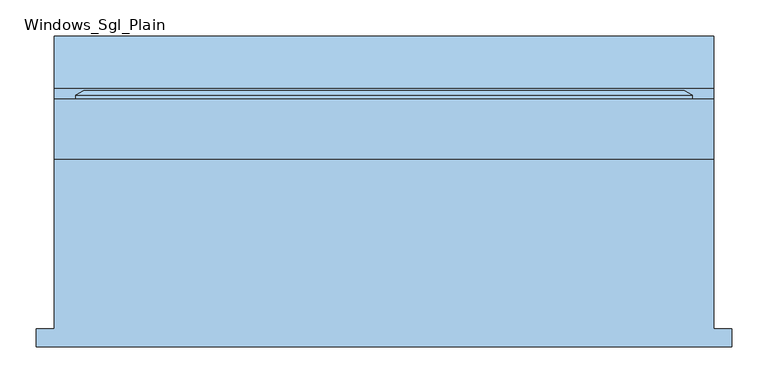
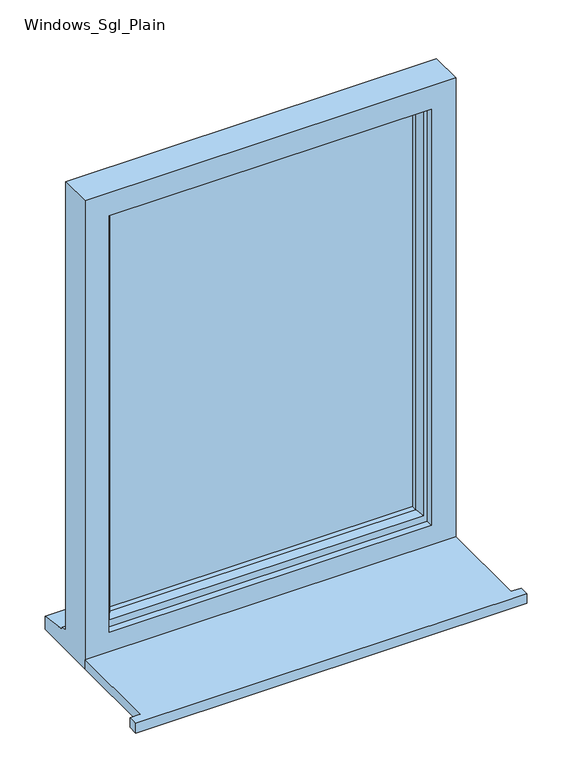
"""IFC4 building model written with IfcOpenShell, lengths in millimetres: window geometry."""

from ifc_helpers import new_model, si_unit, frame, origin, place, context, project, spatial, polyline, outline, extrude, faceted_brep, source, transform, mapped, element, save


def windows_sgl_plain_66ff2678(model_context):
    return source(origin(), model_context, "Body", "SolidModel", [
        extrude(outline(polyline([(-482.2, -200.6934322), (-482.2, -175.6934322), (-457.2, -175.6934322), (-457.2, 59.6065678), (457.2, 59.6065678), (457.2, -175.6934322), (482.2, -175.6934322), (482.2, -200.6934322), (-482.2, -200.6934322)])), frame((0.0, 0.0, 890.8), z_axis=(0.0, 0.0, 1.0), x_axis=(1.0, 0.0, 0.0)), (0.0, 0.0, 1.0), 25.0),
        faceted_brep([(-457.2, 59.6065678, 890.8), (457.2, 59.6065678, 890.8), (457.2, 59.6065678, 2110.0), (-457.2, 59.6065678, 2110.0), (-397.2, 59.6065678, 2050.0), (397.2, 59.6065678, 2050.0), (397.2, 59.6065678, 965.8), (-397.2, 59.6065678, 965.8), (-457.2, 142.6065678, 2110.0), (-457.2, 142.6065678, 941.8), (-457.2, 157.6065678, 940.48767), (-457.2, 157.6065678, 935.5449676), (-457.2, 230.1065678, 924.6088847), (-457.2, 230.1065678, 890.8), (457.2, 142.6065678, 2110.0), (457.2, 142.6065678, 941.8), (-417.2, 142.6065678, 2070.0), (-417.2, 142.6065678, 953.8), (417.2, 142.6065678, 953.8), (417.2, 142.6065678, 2070.0), (-417.2, 77.6065678, 2070.0), (-417.2, 77.6065678, 953.8), (417.2, 77.6065678, 2070.0), (417.2, 77.6065678, 953.8), (-397.2, 77.6065678, 2050.0), (-397.2, 77.6065678, 965.8), (397.2, 77.6065678, 965.8), (397.2, 77.6065678, 2050.0), (457.2, 230.1065678, 890.8), (457.2, 230.1065678, 924.6088847), (457.2, 157.6065678, 935.5449676), (457.2, 157.6065678, 940.48767)], [[[0, 1, 2, 3], [4, 5, 6, 7]], [[0, 3, 8, 9, 10, 11, 12, 13]], [[9, 8, 14, 15], [16, 17, 18, 19]], [[17, 16, 20, 21]], [[20, 22, 23, 21], [24, 25, 26, 27]], [[24, 4, 7, 25]], [[3, 2, 14, 8]], [[16, 19, 22, 20]], [[5, 4, 24, 27]], [[15, 14, 2, 1, 28, 29, 30, 31]], [[19, 18, 23, 22]], [[5, 27, 26, 6]], [[28, 1, 0, 13]], [[29, 28, 13, 12]], [[30, 29, 12, 11]], [[31, 30, 11, 10]], [[15, 31, 10, 9]], [[21, 23, 18, 17]], [[7, 6, 26, 25]]]),
        extrude(outline(polyline([(387.2, 106.6065678), (-387.2, 106.6065678), (-387.2, 130.6065678), (387.2, 130.6065678), (387.2, 106.6065678)])), frame((0.0, 0.0, 983.8), z_axis=(0.0, 0.0, 1.0), x_axis=(1.0, 0.0, 0.0)), (0.0, 0.0, 1.0), 1056.2),
        faceted_brep([(-427.2, 142.6065678, 2080.0), (-427.2, 148.3800705, 2080.0), (-427.2, 148.3800705, 943.8), (-427.2, 142.6065678, 943.8), (-417.2, 77.6065678, 2070.0), (-417.2, 142.6065678, 2070.0), (-417.2, 142.6065678, 953.8), (-417.2, 77.6065678, 953.8), (-377.2, 92.0994677, 2030.0), (-387.3480377, 77.6065678, 2040.1480377), (-387.3480377, 77.6065678, 983.6519623), (-377.2, 92.0994677, 993.8), (-377.2, 106.6065678, 2030.0), (-377.2, 106.6065678, 993.8), (-387.2, 130.6065678, 2040.0), (-387.2, 106.6065678, 2040.0), (-387.2, 106.6065678, 983.8), (-387.2, 130.6065678, 983.8), (-377.2, 148.3800705, 2030.0), (-377.2, 130.6065678, 2030.0), (-377.2, 130.6065678, 993.8), (-377.2, 148.3800705, 993.8), (-394.6457548, 154.1535732, 2047.4457548), (-394.6457548, 154.1535732, 976.3542452), (-416.4153903, 154.1535732, 2069.2153903), (-416.4153903, 154.1535732, 954.5846097), (427.2, 148.3800705, 943.8), (427.2, 142.6065678, 943.8), (417.2, 142.6065678, 953.8), (417.2, 77.6065678, 953.8), (387.3480377, 77.6065678, 983.6519623), (377.2, 92.0994677, 993.8), (377.2, 106.6065678, 993.8), (387.2, 106.6065678, 983.8), (387.2, 130.6065678, 983.8), (377.2, 130.6065678, 993.8), (377.2, 148.3800705, 993.8), (394.6457548, 154.1535732, 976.3542452), (416.4153903, 154.1535732, 954.5846097), (427.2, 148.3800705, 2080.0), (427.2, 142.6065678, 2080.0), (417.2, 142.6065678, 2070.0), (417.2, 77.6065678, 2070.0), (387.3480377, 77.6065678, 2040.1480377), (377.2, 92.0994677, 2030.0), (377.2, 106.6065678, 2030.0), (387.2, 106.6065678, 2040.0), (387.2, 130.6065678, 2040.0), (377.2, 130.6065678, 2030.0), (377.2, 148.3800705, 2030.0), (394.6457548, 154.1535732, 2047.4457548), (416.4153903, 154.1535732, 2069.2153903)], [[[0, 1, 2, 3]], [[4, 5, 6, 7]], [[8, 9, 10, 11]], [[12, 8, 11, 13]], [[14, 15, 16, 17]], [[18, 19, 20, 21]], [[22, 18, 21, 23]], [[1, 24, 25, 2]], [[3, 2, 26, 27]], [[7, 6, 28, 29]], [[11, 10, 30, 31]], [[13, 11, 31, 32]], [[17, 16, 33, 34]], [[21, 20, 35, 36]], [[23, 21, 36, 37]], [[2, 25, 38, 26]], [[27, 26, 39, 40]], [[29, 28, 41, 42]], [[31, 30, 43, 44]], [[32, 31, 44, 45]], [[34, 33, 46, 47]], [[36, 35, 48, 49]], [[37, 36, 49, 50]], [[26, 38, 51, 39]], [[40, 39, 1, 0]], [[3, 27, 40, 0], [5, 41, 28, 6]], [[42, 41, 5, 4]], [[7, 29, 42, 4], [9, 43, 30, 10]], [[44, 43, 9, 8]], [[45, 44, 8, 12]], [[15, 46, 33, 16], [13, 32, 45, 12]], [[47, 46, 15, 14]], [[17, 34, 47, 14], [19, 48, 35, 20]], [[49, 48, 19, 18]], [[50, 49, 18, 22]], [[24, 51, 38, 25], [23, 37, 50, 22]], [[39, 51, 24, 1]]]),
    ])


if __name__ == "__main__":
    model = new_model("IFC4")
    model_context = context("Model", 3, world=origin())
    ifc_project = project(units=[si_unit("LENGTHUNIT", "METRE", prefix="MILLI")], contexts=[model_context])
    site = spatial("IfcSite", under=ifc_project)
    building = spatial("IfcBuilding", under=site)
    placement = place(None, origin())
    windows_sgl_plain_shape = windows_sgl_plain_66ff2678(model_context)
    element("IfcWindow", 1, ObjectType="Windows_Sgl_Plain : 36\"' x 48\"", at=placement, inside=building, context=model_context, shape_type="MappedRepresentation", body=[
        mapped(windows_sgl_plain_shape, transform((0.0, 0.0, 0.0), x_axis=(1.0, 0.0, 0.0), y_axis=(0.0, 1.0, 0.0), z_axis=(0.0, 0.0, 1.0))),
    ])
    save(model, "model.ifc")
